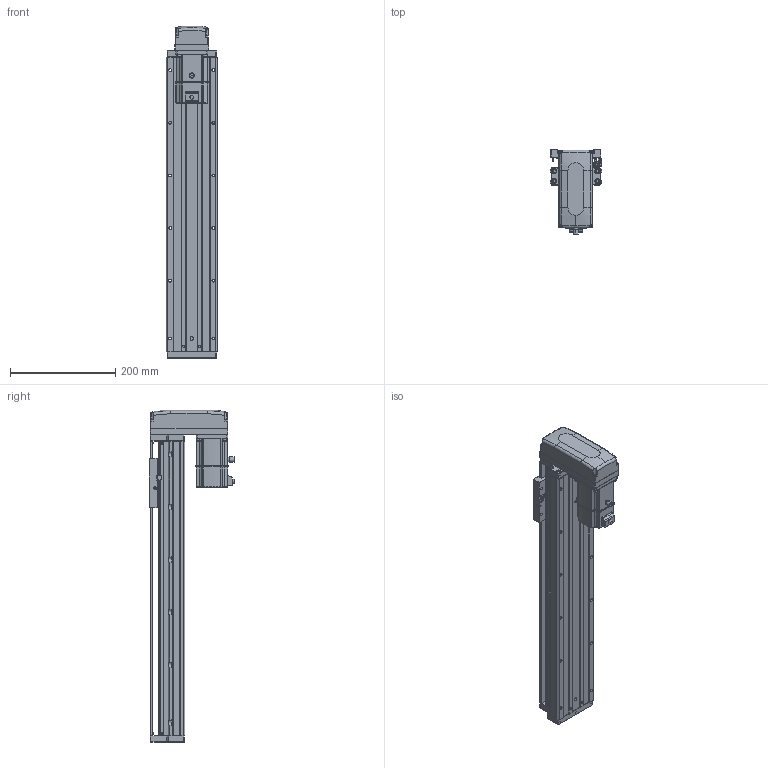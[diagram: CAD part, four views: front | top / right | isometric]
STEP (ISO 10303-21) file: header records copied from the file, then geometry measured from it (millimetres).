
FILE_DESCRIPTION (( 'STEP AP203' ), '1' );
FILE_NAME ('KTHA100-400-BM-M20-C4L.step', '2022-04-26T01:52:59', ( '微软用户' ), ( '微软中国' ), 'SwSTEP 2.0', 'SolidWorks 2020', '' );
FILE_SCHEMA (( 'CONFIG_CONTROL_DESIGN' ));
Length unit declared in the file: millimetre
Products named in the file (17): KTHA100-002; GBT77-2000 M3×3; CTHA86-033; KTHA100-004; GBT 70.1-M3℅6; KTHA100-400-BM-M20-C4L; KTHA100-005; GBT70.1 M5℅16; GB¨uT 70.2-M3¡Á5_M3¡Á6; CTHA60-016; EE_SX911P_R; GBT 70.3-M3℅6; CTHA60-017; _X2_4E0983F1_X0_200W_1; KTHA100-001_560; CTHA60-021; CTHA86-015-1_CTHA86-015-2
Assembly tree (57 placements, depth 2):
  KTHA100-400-BM-M20-C4L
    KTHA100-001_560
    KTHA100-002
    KTHA100-004
    KTHA100-005
    GB¨uT 70.2-M3¡Á5_M3¡Á6  x6
    EE_SX911P_R  x3
    CTHA60-017  x3
    CTHA60-021  x2
    GBT77-2000 M3×3  x6
    GBT 70.1-M3℅6  x10
    GBT70.1 M5℅16  x14
    CTHA60-016  x2
    GBT 70.3-M3℅6  x4
    _X2_4E0983F1_X0_200W_1
    CTHA86-015-1_CTHA86-015-2
    CTHA86-033
Bounding box: 98.82 x 163.2 x 631 mm (x, y, z)
Volume: 2981720.1 mm3; surface area: 491497.2 mm2
Topology: 60 solids, 60 shells, 2397 faces, 5721 edges, 3544 vertices
Faces by surface type: plane 1220, cylinder 665, cone 305, torus 116, bspline 75, sphere 16
Entity records: 40656 total; most frequent: CARTESIAN_POINT 8224, DIRECTION 6272, ORIENTED_EDGE 6054, EDGE_CURVE 3027, AXIS2_PLACEMENT_3D 2200, VERTEX_POINT 1904, LINE 1872, VECTOR 1872
